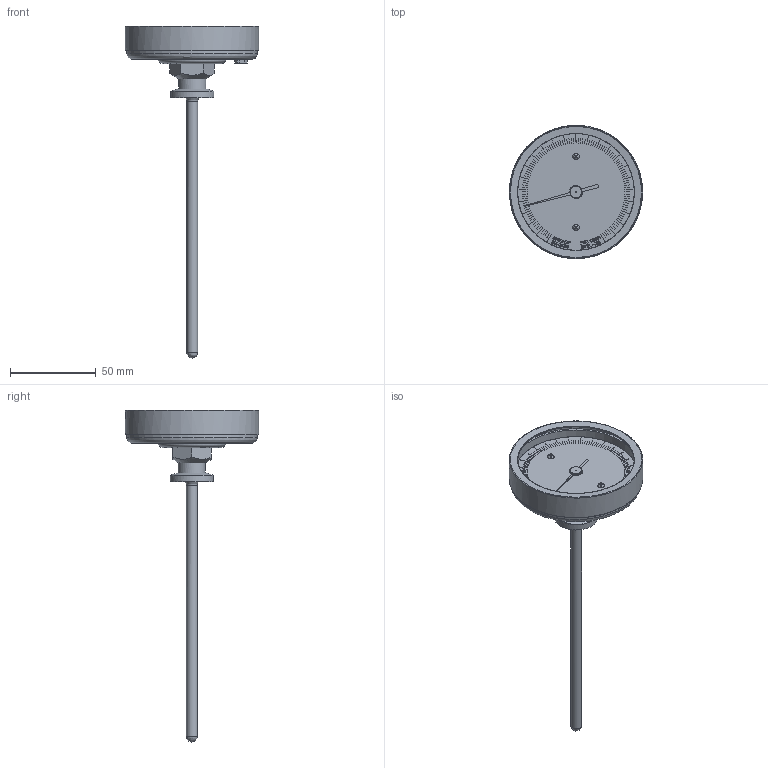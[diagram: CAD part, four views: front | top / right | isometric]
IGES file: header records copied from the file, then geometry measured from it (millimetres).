
Global section: file name: AA-3quarter-SANITARY-IGS; native system: Autodesk Inventor 2014; preprocessor: unknown; author: Charles; date: 20151109.102343; units: inch
Bounding box: 77.47 x 77.46 x 193.16 mm (x, y, z)
Volume: 42804.9 mm3; surface area: 44842.3 mm2
Topology: 26 solids, 27 shells, 1466 faces, 4229 edges, 2829 vertices
Faces by surface type: bspline 1466
